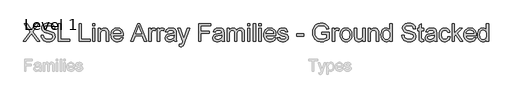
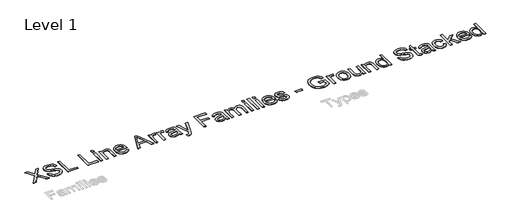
# One storey, part 21 of 52: 1 proxy.
"""IFC4 building model written with IfcOpenShell, lengths in millimetres."""

from ifc_helpers import new_model, si_unit, origin, origin_with_axes, place, context, project, spatial, polyline, outline, extrude, element, save

model = new_model("IFC4")

# Units and contexts
model_context = context("Model", 3, world=origin())
ifc_project = project(units=[si_unit("LENGTHUNIT", "METRE", prefix="MILLI")], contexts=[model_context])

# Site, building, storey
site = spatial("IfcSite", under=ifc_project)
building = spatial("IfcBuilding", under=site)
storey = spatial("IfcBuildingStorey", under=building, Name="Level 1", Elevation=0.0)

# Proxy
placement = place(None, origin())
element("IfcBuildingElementProxy", 1, Name="600mm Arial", ObjectType="600mm Arial", at=placement, inside=storey, context=model_context, shape_type="SweptSolid", body=[
    extrude(outline(polyline([(-21099.5693759, -38567.5695164), (-20867.2151077, -38239.1244711), (-21061.8982596, -37964.8316555), (-20971.5464416, -37964.8316555), (-20861.917607, -38119.1949407), (-20835.7611971, -38158.3007968), (-20824.9822547, -38179.3804351), (-20781.719332, -38118.1648711), (-20673.2677199, -37964.8316555), (-20581.5915267, -37964.8316555), (-20776.2746785, -38240.0073879), (-20543.9204104, -38567.5695164), (-20634.2722284, -38567.5695164), (-20789.076972, -38349.1947641), (-20821.3034347, -38303.8717023), (-20856.7672591, -38353.609348), (-21007.8931827, -38567.5695164), (-21099.5693759, -38567.5695164)])), origin_with_axes(), (0.0, 0.0, 1.0), 5.0),
    extrude(outline(polyline([(-20496.831515, -38360.3783767), (-20421.4892824, -38360.3783767), (-20412.8440555, -38402.1881655), (-20397.2090707, -38435.7941858), (-20372.8184944, -38462.4656304), (-20337.9064931, -38483.4716923), (-20295.2321816, -38497.1017203), (-20247.5546751, -38501.6450629), (-20205.5793394, -38498.2053662), (-20168.8279281, -38487.8862763), (-20139.0478806, -38471.5523157), (-20117.9866364, -38450.0680072), (-20105.4602544, -38425.4015194), (-20101.2847938, -38399.521021), (-20104.4117907, -38374.3027103), (-20113.7927816, -38352.505702), (-20132.849069, -38333.9092672), (-20165.0019553, -38318.2926765), (-20274.7043663, -38289.5243045), (-20346.7172669, -38270.4864112), (-20392.7944867, -38252.368223), (-20430.3000562, -38227.0211535), (-20456.8795303, -38196.3030069), (-20472.7168502, -38160.8759708), (-20477.9959568, -38121.4022327), (-20476.3634805, -38098.9660295), (-20471.4660514, -38077.2747874), (-20463.3036696, -38056.3285063), (-20451.8763352, -38036.1271862), (-20437.3128067, -38017.4939631), (-20419.7418429, -38001.2519731), (-20399.1634438, -37987.4012159), (-20375.5776094, -37975.9416918), (-20322.5658139, -37960.5458303), (-20263.8886356, -37955.4138765), (-20200.3186269, -37960.7849536), (-20144.6948692, -37976.898185), (-20120.3594752, -37988.9003351), (-20099.0039254, -38003.4224768), (-20080.6282197, -38020.4646103), (-20065.2323582, -38040.0267353), (-20052.9359026, -38061.538635), (-20043.8584143, -38084.4300922), (-20037.9998935, -38108.7011068), (-20035.3603402, -38134.3516789), (-20110.7025728, -38134.3516789), (-20115.7425562, -38110.3105905), (-20124.5349359, -38089.3964991), (-20137.0797119, -38071.6094046), (-20153.3768843, -38056.9493071), (-20173.7299557, -38045.489783), (-20198.4424287, -38037.3044086), (-20227.5143034, -38032.3931839), (-20260.9455797, -38030.7561091), (-20295.4437138, -38032.3747898), (-20324.9202586, -38037.2308322), (-20349.3752143, -38045.3242361), (-20368.8085807, -38056.6550015), (-20383.615831, -38070.2758324), (-20394.1924383, -38085.2394326), (-20400.5384027, -38101.545802), (-20402.6537242, -38119.1949407), (-20401.1546051, -38134.3792701), (-20396.6572477, -38148.1472537), (-20389.161652, -38160.4988917), (-20378.6678181, -38171.434184), (-20362.1499165, -38181.7900622), (-20336.1406595, -38192.2563049), (-20255.6480789, -38213.5198843), (-20172.5803244, -38233.7166058), (-20122.3276439, -38251.3381534), (-20079.377421, -38278.6717856), (-20062.7721474, -38294.7390318), (-20049.4134324, -38312.4065646), (-20039.1449263, -38331.5824136), (-20031.810279, -38352.1746083), (-20025.9425612, -38397.6080347), (-20027.6302198, -38421.175475), (-20032.6931958, -38444.0531365), (-20041.131489, -38466.2410194), (-20052.9450996, -38487.7391235), (-20067.9270939, -38507.7151158), (-20085.8705382, -38525.3366634), (-20106.7754325, -38540.6037662), (-20130.641777, -38553.5164242), (-20156.7751942, -38563.7849304), (-20184.481307, -38571.1195777), (-20244.6116191, -38576.9872955), (-20283.1518566, -38575.4054029), (-20318.4271414, -38570.6597252), (-20350.4374735, -38562.7502623), (-20379.1828529, -38551.6770142), (-20404.8380236, -38537.4215869), (-20427.5777294, -38519.9655863), (-20447.4019704, -38499.3090122), (-20464.3107466, -38475.4518648), (-20477.9315775, -38449.1666963), (-20487.8919825, -38421.2260587), (-20494.1919617, -38391.6299522), (-20496.831515, -38360.3783767)])), origin_with_axes(), (0.0, 0.0, 1.0), 5.0),
    extrude(outline(polyline([(-19912.9292122, -38567.5695164), (-19912.9292122, -37964.8316555), (-19837.5869796, -37964.8316555), (-19837.5869796, -38492.2272838), (-19536.2180492, -38492.2272838), (-19536.2180492, -38567.5695164), (-19912.9292122, -38567.5695164)])), origin_with_axes(), (0.0, 0.0, 1.0), 5.0),
    extrude(outline(polyline([(-19216.0135606, -38567.5695164), (-19216.0135606, -37964.8316555), (-19140.671328, -37964.8316555), (-19140.671328, -38492.2272838), (-18839.3023975, -38492.2272838), (-18839.3023975, -38567.5695164), (-19216.0135606, -38567.5695164)])), origin_with_axes(), (0.0, 0.0, 1.0), 5.0),
    extrude(outline(polyline([(-18763.9601649, -38040.1738881), (-18763.9601649, -37964.8316555), (-18688.6179323, -37964.8316555), (-18688.6179323, -38040.1738881), (-18763.9601649, -38040.1738881)])), origin_with_axes(), (0.0, 0.0, 1.0), 5.0),
    extrude(outline(polyline([(-18763.9601649, -38567.5695164), (-18763.9601649, -38124.9338998), (-18688.6179323, -38124.9338998), (-18688.6179323, -38567.5695164), (-18763.9601649, -38567.5695164)])), origin_with_axes(), (0.0, 0.0, 1.0), 5.0),
    extrude(outline(polyline([(-18575.6045834, -38567.5695164), (-18575.6045834, -38124.9338998), (-18500.2623508, -38124.9338998), (-18500.2623508, -38186.738075), (-18474.0875468, -38155.57847), (-18442.6520303, -38133.3216093), (-18405.9558013, -38119.9674929), (-18363.9988597, -38115.5161208), (-18326.8611723, -38119.1029702), (-18292.8504819, -38129.8635186), (-18264.4867801, -38146.4549965), (-18244.2900585, -38167.5346349), (-18230.5864542, -38193.0472512), (-18221.702104, -38222.9376633), (-18217.7289785, -38295.7782984), (-18217.7289785, -38567.5695164), (-18293.0712111, -38567.5695164), (-18293.0712111, -38305.9318415), (-18295.2417148, -38266.9731382), (-18301.7532262, -38239.2716239), (-18313.7645733, -38219.4243903), (-18332.4345846, -38204.0285288), (-18356.3653083, -38194.1508972), (-18384.1587931, -38190.8583534), (-18407.0364547, -38192.7069604), (-18428.2862384, -38198.2527815), (-18447.9081443, -38207.4958166), (-18465.9021724, -38220.4360658), (-18480.9347504, -38238.545057), (-18491.6723062, -38263.2943182), (-18498.1148396, -38294.6838495), (-18500.2623508, -38332.7136507), (-18500.2623508, -38567.5695164), (-18575.6045834, -38567.5695164)])), origin_with_axes(), (0.0, 0.0, 1.0), 5.0),
    extrude(outline(polyline([(-17804.2296159, -38435.7206094), (-17730.3589113, -38445.1383884), (-17741.6850782, -38474.7252979), (-17756.9751736, -38500.7989343), (-17776.2291975, -38523.3592977), (-17799.4471499, -38542.406388), (-17826.3899076, -38557.535535), (-17856.8183471, -38568.3420686), (-17890.7324685, -38574.8259888), (-17928.1322719, -38576.9872955), (-17974.8808764, -38573.2578918), (-18016.5343153, -38562.0696806), (-18053.0925886, -38543.422662), (-18084.5556962, -38517.3168359), (-18109.8567804, -38484.4787693), (-18127.9289834, -38445.6350291), (-18138.7723052, -38400.7856154), (-18142.3867459, -38349.9305281), (-18138.7355171, -38297.3509939), (-18127.7818306, -38251.0070596), (-18109.5256866, -38210.8987251), (-18083.967085, -38177.0259903), (-18052.5867508, -38150.1154224), (-18016.8654091, -38130.8935882), (-17976.8030598, -38119.3604876), (-17932.399703, -38115.5161208), (-17889.4264874, -38119.3512906), (-17850.5643532, -38130.8568), (-17815.8133002, -38150.032649), (-17785.1733285, -38176.8788375), (-17760.1619514, -38210.6779959), (-17742.296682, -38250.712754), (-17731.5775204, -38296.9831119), (-17728.0044665, -38349.4890697), (-17728.4459249, -38369.7961558), (-18067.0445132, -38369.7961558), (-18062.6805131, -38399.8613119), (-18054.0030965, -38426.1924657), (-18041.0122636, -38448.7896172), (-18023.7080142, -38467.6527665), (-18003.0468417, -38482.5243962), (-17979.9852391, -38493.1469888), (-17954.5232065, -38499.5205444), (-17926.6607439, -38501.6450629), (-17886.5616064, -38497.7087255), (-17852.7900392, -38485.8997135), (-17825.3460424, -38465.4822628), (-17804.2296159, -38435.7206094)]), holes=[polyline([(-18067.0445132, -38294.4539232), (-17803.3466991, -38294.4539232), (-17813.5370304, -38254.6490913), (-17822.3018189, -38238.9957124), (-17833.5130227, -38226.1750249), (-17854.0592321, -38210.7239811), (-17877.4381329, -38199.6875213), (-17903.6497251, -38193.0656453), (-17932.6940086, -38190.8583534), (-17959.1861108, -38192.6195884), (-17983.480118, -38197.9032936), (-18005.5760304, -38206.7094688), (-18025.4738478, -38219.0381142), (-18042.1710918, -38234.3190126), (-18054.6652841, -38251.9819469), (-18062.9564246, -38272.0269171), (-18067.0445132, -38294.4539232)])]), origin_with_axes(), (0.0, 0.0, 1.0), 5.0),
    extrude(outline(polyline([(-17477.9918626, -38567.5695164), (-17237.3970377, -37964.8316555), (-17173.2384178, -37964.8316555), (-16932.6435929, -38567.5695164), (-17012.2532567, -38567.5695164), (-17081.267919, -38379.2139349), (-17329.5146893, -38379.2139349), (-17398.3821988, -38567.5695164), (-17477.9918626, -38567.5695164)]), holes=[polyline([(-17301.8499633, -38303.8717023), (-17108.7854922, -38303.8717023), (-17163.0848747, -38155.6888346), (-17205.3177277, -38040.1738881), (-17242.8416912, -38142.7393884), (-17301.8499633, -38303.8717023)])]), origin_with_axes(), (0.0, 0.0, 1.0), 5.0),
    extrude(outline(polyline([(-16861.5687914, -38567.5695164), (-16861.5687914, -38124.9338998), (-16795.6443379, -38124.9338998), (-16795.6443379, -38190.416895), (-16771.2905498, -38152.4514731), (-16748.8497481, -38130.0842478), (-16726.33537, -38119.1581525), (-16701.7608527, -38115.5161208), (-16664.2368892, -38121.3286563), (-16626.1243145, -38138.7662628), (-16651.287443, -38206.3093972), (-16677.7749467, -38194.7211143), (-16704.2624503, -38190.8583534), (-16726.7584343, -38194.5739615), (-16746.8631853, -38205.720786), (-16763.1051754, -38223.4526981), (-16774.0128766, -38246.9235694), (-16783.1731383, -38289.0092697), (-16786.2265588, -38334.9209427), (-16786.2265588, -38567.5695164), (-16861.5687914, -38567.5695164)])), origin_with_axes(), (0.0, 0.0, 1.0), 5.0),
    extrude(outline(polyline([(-16579.0354191, -38567.5695164), (-16579.0354191, -38124.9338998), (-16513.1109656, -38124.9338998), (-16513.1109656, -38190.416895), (-16488.7571775, -38152.4514731), (-16466.3163758, -38130.0842478), (-16443.8019977, -38119.1581525), (-16419.2274804, -38115.5161208), (-16381.7035169, -38121.3286563), (-16343.5909422, -38138.7662628), (-16368.7540707, -38206.3093972), (-16395.2415744, -38194.7211143), (-16421.729078, -38190.8583534), (-16444.225062, -38194.5739615), (-16464.3298131, -38205.720786), (-16480.5718031, -38223.4526981), (-16491.4795043, -38246.9235694), (-16500.639766, -38289.0092697), (-16503.6931865, -38334.9209427), (-16503.6931865, -38567.5695164), (-16579.0354191, -38567.5695164)])), origin_with_axes(), (0.0, 0.0, 1.0), 5.0),
    extrude(outline(polyline([(-16013.9686746, -38511.062842), (-16049.9659278, -38541.9281414), (-16087.0300388, -38562.1248629), (-16126.0071362, -38573.2716874), (-16167.7433485, -38576.9872955), (-16201.289588, -38574.7524124), (-16230.706352, -38568.047763), (-16255.9936407, -38556.8733474), (-16277.1514539, -38541.2291656), (-16293.857895, -38522.1084989), (-16305.7910672, -38500.5046287), (-16312.9509706, -38476.4175551), (-16315.337605, -38449.847278), (-16311.7323615, -38418.6140966), (-16300.9166308, -38390.2503948), (-16284.2331823, -38365.9701831), (-16263.0247853, -38346.9874721), (-16238.1007801, -38332.6400743), (-16210.2705072, -38322.265802), (-16145.0818176, -38310.9350366), (-16068.0473278, -38299.0156599), (-16014.410133, -38285.0361441), (-16013.9686746, -38268.2607252), (-16019.1558107, -38234.6363108), (-16025.6397309, -38222.1835053), (-16034.7172191, -38212.6369675), (-16050.4073862, -38203.1088238), (-16069.5188558, -38196.3030069), (-16118.0057028, -38190.8583534), (-16162.8873062, -38194.481991), (-16194.2308522, -38205.352904), (-16215.6047961, -38225.457655), (-16230.5775933, -38256.7828069), (-16305.9198259, -38247.3650278), (-16292.841621, -38206.1622444), (-16273.3254812, -38173.7886288), (-16245.5503905, -38149.0301705), (-16207.6953332, -38130.672859), (-16161.3973841, -38119.3053053), (-16108.2936181, -38115.5161208), (-16057.3603559, -38118.8638469), (-16016.9853069, -38128.9070254), (-15986.5430718, -38144.0085813), (-15965.4082512, -38162.5314397), (-15951.3919472, -38185.4320939), (-15942.3052619, -38213.6670371), (-15938.6264419, -38279.5914906), (-15938.6264419, -38373.327823), (-15934.8004692, -38504.2202369), (-15929.1350865, -38536.5754583), (-15919.7908838, -38567.5695164), (-15995.1331164, -38567.5695164), (-16007.1996458, -38541.3763184), (-16013.9686746, -38511.062842)]), holes=[polyline([(-16013.9686746, -38360.3783767), (-16064.5892371, -38372.9231528), (-16135.5168858, -38383.481366), (-16200.3376933, -38395.6950483), (-16217.2050828, -38404.0459696), (-16229.6946765, -38415.560676), (-16237.4201984, -38429.3562508), (-16239.9953724, -38444.5497772), (-16234.385172, -38466.9537907), (-16217.5545707, -38485.3111023), (-16189.8714506, -38497.5615727), (-16151.7036936, -38501.6450629), (-16111.2366741, -38497.1385085), (-16075.4785442, -38483.6188451), (-16046.4894429, -38463.6980351), (-16026.3295096, -38439.9880405), (-16017.3899771, -38415.560676), (-16014.410133, -38381.7155325), (-16013.9686746, -38360.3783767)])]), origin_with_axes(), (0.0, 0.0, 1.0), 5.0),
    extrude(outline(polyline([(-15835.0308721, -38737.0895398), (-15844.4486512, -38664.5432104), (-15806.1889237, -38671.1650863), (-15786.0657785, -38669.086553), (-15770.4307938, -38662.8509532), (-15758.2538997, -38652.8997452), (-15748.5050268, -38639.6743875), (-15727.9036351, -38584.1977826), (-15722.0175232, -38565.9508356), (-15882.1197675, -38124.9338998), (-15802.6572565, -38124.9338998), (-15717.750092, -38370.6790726), (-15688.1723796, -38468.9771417), (-15658.5946672, -38382.1569909), (-15571.333058, -38124.9338998), (-15492.4591582, -38124.9338998), (-15646.5281378, -38578.1645179), (-15686.5536989, -38676.462587), (-15707.044726, -38707.8429212), (-15730.2580799, -38729.5847471), (-15757.2238301, -38742.2766759), (-15788.9720463, -38746.5073189), (-15810.7874486, -38744.1528741), (-15835.0308721, -38737.0895398)])), origin_with_axes(), (0.0, 0.0, 1.0), 5.0),
    extrude(outline(polyline([(-15185.2041158, -38567.5695164), (-15185.2041158, -37964.8316555), (-14780.2396155, -37964.8316555), (-14780.2396155, -38040.1738881), (-15109.8618832, -38040.1738881), (-15109.8618832, -38219.1116906), (-14827.3285109, -38219.1116906), (-14827.3285109, -38294.4539232), (-15109.8618832, -38294.4539232), (-15109.8618832, -38567.5695164), (-15185.2041158, -38567.5695164)])), origin_with_axes(), (0.0, 0.0, 1.0), 5.0),
    extrude(outline(polyline([(-14403.5284525, -38511.062842), (-14439.5257057, -38541.9281414), (-14476.5898167, -38562.1248629), (-14515.5669141, -38573.2716874), (-14557.3031265, -38576.9872955), (-14590.8493659, -38574.7524124), (-14620.2661299, -38568.047763), (-14645.5534186, -38556.8733474), (-14666.7112318, -38541.2291656), (-14683.4176729, -38522.1084989), (-14695.3508451, -38500.5046287), (-14702.5107485, -38476.4175551), (-14704.8973829, -38449.847278), (-14701.2921394, -38418.6140966), (-14690.4764087, -38390.2503948), (-14673.7929602, -38365.9701831), (-14652.5845632, -38346.9874721), (-14627.660558, -38332.6400743), (-14599.8302851, -38322.265802), (-14534.6415956, -38310.9350366), (-14457.6071058, -38299.0156599), (-14403.9699109, -38285.0361441), (-14403.5284525, -38268.2607252), (-14408.7155886, -38234.6363108), (-14415.1995088, -38222.1835053), (-14424.276997, -38212.6369675), (-14439.9671641, -38203.1088238), (-14459.0786337, -38196.3030069), (-14507.5654807, -38190.8583534), (-14552.4470841, -38194.481991), (-14583.7906301, -38205.352904), (-14605.164574, -38225.457655), (-14620.1373712, -38256.7828069), (-14695.4796038, -38247.3650278), (-14682.4013989, -38206.1622444), (-14662.8852591, -38173.7886288), (-14635.1101684, -38149.0301705), (-14597.2551111, -38130.672859), (-14550.957162, -38119.3053053), (-14497.853396, -38115.5161208), (-14446.9201338, -38118.8638469), (-14406.5450848, -38128.9070254), (-14376.1028497, -38144.0085813), (-14354.9680291, -38162.5314397), (-14340.9517251, -38185.4320939), (-14331.8650398, -38213.6670371), (-14328.1862199, -38279.5914906), (-14328.1862199, -38373.327823), (-14324.3602471, -38504.2202369), (-14318.6948644, -38536.5754583), (-14309.3506617, -38567.5695164), (-14384.6928943, -38567.5695164), (-14396.7594238, -38541.3763184), (-14403.5284525, -38511.062842)]), holes=[polyline([(-14403.5284525, -38360.3783767), (-14454.149015, -38372.9231528), (-14525.0766637, -38383.481366), (-14589.8974712, -38395.6950483), (-14606.7648607, -38404.0459696), (-14619.2544544, -38415.560676), (-14626.9799763, -38429.3562508), (-14629.5551503, -38444.5497772), (-14623.9449499, -38466.9537907), (-14607.1143486, -38485.3111023), (-14579.4312285, -38497.5615727), (-14541.2634715, -38501.6450629), (-14500.796452, -38497.1385085), (-14465.0383221, -38483.6188451), (-14436.0492208, -38463.6980351), (-14415.8892875, -38439.9880405), (-14406.949755, -38415.560676), (-14403.9699109, -38381.7155325), (-14403.5284525, -38360.3783767)])]), origin_with_axes(), (0.0, 0.0, 1.0), 5.0),
    extrude(outline(polyline([(-14224.59065, -38567.5695164), (-14224.59065, -38124.9338998), (-14149.2484174, -38124.9338998), (-14149.2484174, -38197.7745349), (-14126.5868865, -38164.3156674), (-14097.4506325, -38138.1040753), (-14062.8329367, -38121.1631094), (-14023.7270807, -38115.5161208), (-13981.8253214, -38121.273474), (-13963.9922417, -38128.4701655), (-13948.2376952, -38138.5455337), (-13923.1481432, -38166.1918656), (-13906.7406062, -38203.0720356), (-13879.2782152, -38164.7663229), (-13847.9530634, -38137.4050995), (-13812.7651505, -38120.9883654), (-13773.7144767, -38115.5161208), (-13743.5527516, -38117.7923906), (-13717.0790436, -38124.6212001), (-13694.2933525, -38136.0025494), (-13675.1956784, -38151.9364383), (-13660.098721, -38172.6068079), (-13649.3151801, -38198.1975992), (-13642.8450555, -38228.7088121), (-13640.6883473, -38264.1404468), (-13640.6883473, -38567.5695164), (-13716.0305799, -38567.5695164), (-13716.0305799, -38296.5140624), (-13717.7780194, -38258.9349166), (-13723.0203378, -38233.6062412), (-13732.8427871, -38216.2606051), (-13748.3306191, -38202.6305772), (-13768.2514291, -38193.8014093), (-13791.3728125, -38190.8583534), (-13812.7237638, -38192.7437486), (-13832.1893199, -38198.3999343), (-13849.7694807, -38207.8269104), (-13865.4642463, -38221.024677), (-13878.3723058, -38238.3795101), (-13887.5923483, -38260.2776859), (-13893.1243738, -38286.7192043), (-13894.9683823, -38317.7040653), (-13894.9683823, -38567.5695164), (-13970.310615, -38567.5695164), (-13970.310615, -38288.1263529), (-13974.6700166, -38245.5256178), (-13980.1192686, -38228.8053812), (-13987.7482215, -38215.138565), (-13997.8603779, -38204.5159724), (-14010.7592403, -38196.9284063), (-14026.4448089, -38192.3758666), (-14044.9170836, -38190.8583534), (-14073.942973, -38194.9050553), (-14100.687994, -38207.0451612), (-14122.7609138, -38226.9843653), (-14137.7704992, -38254.4283621), (-14146.3789378, -38292.5041486), (-14149.2484174, -38344.3387218), (-14149.2484174, -38567.5695164), (-14224.59065, -38567.5695164)])), origin_with_axes(), (0.0, 0.0, 1.0), 5.0),
    extrude(outline(polyline([(-13527.6749984, -38040.1738881), (-13527.6749984, -37964.8316555), (-13452.3327657, -37964.8316555), (-13452.3327657, -38040.1738881), (-13527.6749984, -38040.1738881)])), origin_with_axes(), (0.0, 0.0, 1.0), 5.0),
    extrude(outline(polyline([(-13527.6749984, -38567.5695164), (-13527.6749984, -38124.9338998), (-13452.3327657, -38124.9338998), (-13452.3327657, -38567.5695164), (-13527.6749984, -38567.5695164)])), origin_with_axes(), (0.0, 0.0, 1.0), 5.0),
    extrude(outline(polyline([(-13339.3194168, -38567.5695164), (-13339.3194168, -37964.8316555), (-13263.9771842, -37964.8316555), (-13263.9771842, -38567.5695164), (-13339.3194168, -38567.5695164)])), origin_with_axes(), (0.0, 0.0, 1.0), 5.0),
    extrude(outline(polyline([(-13150.9638353, -38040.1738881), (-13150.9638353, -37964.8316555), (-13075.6216027, -37964.8316555), (-13075.6216027, -38040.1738881), (-13150.9638353, -38040.1738881)])), origin_with_axes(), (0.0, 0.0, 1.0), 5.0),
    extrude(outline(polyline([(-13150.9638353, -38567.5695164), (-13150.9638353, -38124.9338998), (-13075.6216027, -38124.9338998), (-13075.6216027, -38567.5695164), (-13150.9638353, -38567.5695164)])), origin_with_axes(), (0.0, 0.0, 1.0), 5.0),
    extrude(outline(polyline([(-12652.704461, -38435.7206094), (-12578.8337564, -38445.1383884), (-12590.1599233, -38474.7252979), (-12605.4500187, -38500.7989343), (-12624.7040427, -38523.3592977), (-12647.9219951, -38542.406388), (-12674.8647527, -38557.535535), (-12705.2931922, -38568.3420686), (-12739.2073137, -38574.8259888), (-12776.607117, -38576.9872955), (-12823.3557215, -38573.2578918), (-12865.0091604, -38562.0696806), (-12901.5674337, -38543.422662), (-12933.0305414, -38517.3168359), (-12958.3316256, -38484.4787693), (-12976.4038286, -38445.6350291), (-12987.2471504, -38400.7856154), (-12990.861591, -38349.9305281), (-12987.2103622, -38297.3509939), (-12976.2566758, -38251.0070596), (-12958.0005318, -38210.8987251), (-12932.4419302, -38177.0259903), (-12901.061596, -38150.1154224), (-12865.3402542, -38130.8935882), (-12825.277905, -38119.3604876), (-12780.8745481, -38115.5161208), (-12737.9013326, -38119.3512906), (-12699.0391983, -38130.8568), (-12664.2881453, -38150.032649), (-12633.6481737, -38176.8788375), (-12608.6367965, -38210.6779959), (-12590.7715271, -38250.712754), (-12580.0523655, -38296.9831119), (-12576.4793116, -38349.4890697), (-12576.92077, -38369.7961558), (-12915.5193584, -38369.7961558), (-12911.1553582, -38399.8613119), (-12902.4779417, -38426.1924657), (-12889.4871087, -38448.7896172), (-12872.1828593, -38467.6527665), (-12851.5216868, -38482.5243962), (-12828.4600842, -38493.1469888), (-12802.9980516, -38499.5205444), (-12775.135589, -38501.6450629), (-12735.0364515, -38497.7087255), (-12701.2648844, -38485.8997135), (-12673.8208875, -38465.4822628), (-12652.704461, -38435.7206094)]), holes=[polyline([(-12915.5193584, -38294.4539232), (-12651.8215442, -38294.4539232), (-12662.0118755, -38254.6490913), (-12670.776664, -38238.9957124), (-12681.9878678, -38226.1750249), (-12702.5340773, -38210.7239811), (-12725.9129781, -38199.6875213), (-12752.1245702, -38193.0656453), (-12781.1688537, -38190.8583534), (-12807.6609559, -38192.6195884), (-12831.9549632, -38197.9032936), (-12854.0508755, -38206.7094688), (-12873.9486929, -38219.0381142), (-12890.645937, -38234.3190126), (-12903.1401292, -38251.9819469), (-12911.4312697, -38272.0269171), (-12915.5193584, -38294.4539232)])]), origin_with_axes(), (0.0, 0.0, 1.0), 5.0),
    extrude(outline(polyline([(-12529.3904162, -38435.7206094), (-12454.0481836, -38426.3028303), (-12449.4956439, -38443.4829195), (-12442.1655952, -38458.5292931), (-12432.0580374, -38471.4419511), (-12419.1729705, -38482.2208935), (-12403.4736063, -38490.7189676), (-12384.9231567, -38496.7890206), (-12339.2690011, -38501.6450629), (-12294.1666685, -38497.1936908), (-12276.6370915, -38491.6294756), (-12262.4552405, -38483.8395743), (-12243.6932588, -38464.4889814), (-12239.0027634, -38453.6548566), (-12237.4392649, -38442.0481797), (-12239.0119604, -38431.8762425), (-12243.730047, -38422.8447395), (-12262.6023933, -38408.2030361), (-12290.8189424, -38398.6381042), (-12340.1519179, -38386.7187276), (-12408.9090628, -38366.8347058), (-12453.6067252, -38349.8569517), (-12482.319915, -38331.3340932), (-12503.1236418, -38306.8147582), (-12515.7603883, -38277.8624452), (-12519.9726372, -38246.0406526), (-12516.5881228, -38216.8492163), (-12506.4345797, -38189.9018602), (-12490.431713, -38166.265442), (-12469.4992274, -38147.0068195), (-12448.6955006, -38134.8851078), (-12421.6009917, -38124.7131706), (-12390.2758398, -38117.8153832), (-12356.7801841, -38115.5161208), (-12307.7415141, -38119.2133348), (-12265.1039909, -38130.304977), (-12230.817389, -38147.7057953), (-12206.8314829, -38170.330538), (-12190.9389807, -38199.8530681), (-12180.9325904, -38237.9472487), (-12256.274823, -38247.3650278), (-12265.7845726, -38223.6550332), (-12284.6017367, -38205.7943624), (-12312.9102562, -38194.5923556), (-12350.8940722, -38190.8583534), (-12394.1569948, -38194.4268087), (-12422.9989432, -38205.1321748), (-12439.2225392, -38220.5832186), (-12444.6304046, -38238.3887071), (-12442.3863244, -38249.97699), (-12435.6540839, -38260.3144741), (-12424.1393774, -38269.5483121), (-12407.5478994, -38276.9427402), (-12342.6535155, -38292.9823952), (-12232.0681877, -38328.4462196), (-12202.8583573, -38345.4055795), (-12180.7118612, -38368.6189334), (-12166.7507395, -38398.1598576), (-12162.0970323, -38434.1019286), (-12167.5600799, -38471.2580101), (-12183.9492228, -38506.2067996), (-12210.6390615, -38536.2075763), (-12247.0041967, -38558.5196193), (-12290.929307, -38572.3703765), (-12340.2990707, -38576.9872955), (-12380.8488636, -38574.7616094), (-12416.2667027, -38568.0845512), (-12446.552588, -38556.9561209), (-12471.7065194, -38541.3763184), (-12492.2527288, -38521.4187201), (-12508.7154481, -38497.1569026), (-12521.0946773, -38468.5908656), (-12529.3904162, -38435.7206094)])), origin_with_axes(), (0.0, 0.0, 1.0), 5.0),
    extrude(outline(polyline([(-11879.56366, -38388.631714), (-11879.56366, -38313.2894814), (-11644.119183, -38313.2894814), (-11644.119183, -38388.631714), (-11879.56366, -38388.631714)])), origin_with_axes(), (0.0, 0.0, 1.0), 5.0),
    extrude(outline(polyline([(-11031.9635431, -38332.1250395), (-11031.9635431, -38256.7828069), (-10787.1012871, -38256.7828069), (-10787.1012871, -38482.0737407), (-10846.6061998, -38523.4604652), (-10907.9873107, -38553.1485422), (-10971.097467, -38571.0276072), (-11035.7895158, -38576.9872955), (-11079.066234, -38574.6190552), (-11120.3104042, -38567.5143341), (-11159.5220264, -38555.6731324), (-11196.7011005, -38539.09545), (-11230.6474116, -38518.0296073), (-11260.1607447, -38492.7239245), (-11285.2410997, -38463.1784018), (-11305.8884767, -38429.393039), (-11322.0155036, -38392.4484897), (-11333.5348086, -38353.425407), (-11340.4463916, -38312.3237911), (-11342.7502526, -38269.1436419), (-11340.4555887, -38225.9588942), (-11333.5715968, -38184.2548716), (-11322.0982771, -38144.0315739), (-11306.0356295, -38105.2890013), (-11285.6687625, -38069.7286079), (-11261.2827848, -38039.0518481), (-11232.8776962, -38013.2587217), (-11200.4534969, -37992.3492288), (-11164.713761, -37976.1900121), (-11126.362063, -37964.6477145), (-11085.3984029, -37957.722336), (-11041.8227805, -37955.4138765), (-10979.761088, -37960.7665595), (-10923.9533893, -37976.8246086), (-10899.0339826, -37988.5784383), (-10876.9564644, -38002.4291954), (-10857.7208346, -38018.3768799), (-10841.3270932, -38036.4214918), (-10814.9683482, -38080.4385725), (-10795.7833022, -38136.1175125), (-10865.2394229, -38155.6888346), (-10880.745649, -38115.9759732), (-10899.5996012, -38086.0119847), (-10924.5420005, -38063.4240302), (-10958.3135676, -38045.8392709), (-10998.578252, -38034.5268995), (-11043.0000029, -38030.7561091), (-11095.0001229, -38034.8212051), (-11139.4586621, -38047.0164933), (-11176.2100734, -38065.8152632), (-11205.08881, -38089.6908047), (-11227.2537002, -38117.410713), (-11243.8635723, -38147.7425835), (-11261.5219081, -38204.61714), (-11267.40802, -38266.0534332), (-11265.6375879, -38303.6739657), (-11260.3262916, -38338.1031219), (-11251.4741311, -38369.3409019), (-11239.0811064, -38397.3873055), (-11223.3081658, -38422.1365667), (-11204.3162578, -38443.4829195), (-11182.1053824, -38461.4263638), (-11156.6755394, -38475.9668996), (-11129.217747, -38487.2010961), (-11100.9230231, -38495.2255221), (-11071.7913676, -38500.0401777), (-11041.8227805, -38501.6450629), (-10989.6387195, -38496.8074147), (-10938.7422455, -38482.2944699), (-10894.5412238, -38462.3000835), (-10862.4435197, -38441.0181101), (-10862.4435197, -38332.1250395), (-11031.9635431, -38332.1250395)])), origin_with_axes(), (0.0, 0.0, 1.0), 5.0),
    extrude(outline(polyline([(-10674.0879382, -38567.5695164), (-10674.0879382, -38124.9338998), (-10608.1634846, -38124.9338998), (-10608.1634846, -38190.416895), (-10583.8096966, -38152.4514731), (-10561.3688948, -38130.0842478), (-10538.8545167, -38119.1581525), (-10514.2799995, -38115.5161208), (-10476.756036, -38121.3286563), (-10438.6434613, -38138.7662628), (-10463.8065897, -38206.3093972), (-10490.2940934, -38194.7211143), (-10516.781597, -38190.8583534), (-10539.277581, -38194.5739615), (-10559.3823321, -38205.720786), (-10575.6243222, -38223.4526981), (-10586.5320233, -38246.9235694), (-10595.692285, -38289.0092697), (-10598.7457056, -38334.9209427), (-10598.7457056, -38567.5695164), (-10674.0879382, -38567.5695164)])), origin_with_axes(), (0.0, 0.0, 1.0), 5.0),
    extrude(outline(polyline([(-10410.390124, -38346.2517081), (-10406.3158309, -38288.9264962), (-10394.0929516, -38239.5291413), (-10373.7214862, -38198.0596434), (-10345.2014345, -38164.5180025), (-10316.4882448, -38143.0796792), (-10284.7952109, -38127.7665912), (-10250.1223328, -38118.5787384), (-10212.4696106, -38115.5161208), (-10170.9035437, -38119.2455245), (-10133.3197994, -38130.4337357), (-10099.7183776, -38149.0807543), (-10070.0992785, -38175.1865804), (-10045.9248329, -38207.8682971), (-10028.6573717, -38246.2429877), (-10018.296895, -38290.3106522), (-10014.8434028, -38340.0712906), (-10016.3701131, -38380.4003543), (-10020.9502439, -38416.1860754), (-10028.5837953, -38447.4284539), (-10039.2707673, -38474.1274897), (-10052.8778026, -38497.1890922), (-10069.271544, -38517.519171), (-10088.4519915, -38535.1177259), (-10110.4191452, -38549.9847571), (-10134.3176793, -38561.7983676), (-10159.2922682, -38570.2366609), (-10185.342912, -38575.2996369), (-10212.4696106, -38576.9872955), (-10254.6426828, -38573.2716874), (-10292.5759151, -38562.1248629), (-10326.2693073, -38543.5468221), (-10355.7228595, -38517.5375651), (-10379.6397878, -38484.5385501), (-10396.7233079, -38444.9912356), (-10406.97342, -38398.8956216), (-10410.390124, -38346.2517081)]), holes=[polyline([(-10335.0478914, -38346.1045553), (-10332.8681906, -38382.649033), (-10326.3290881, -38414.2914831), (-10315.430584, -38441.0319057), (-10300.1726783, -38462.8703006), (-10281.6130316, -38479.8342591), (-10260.8093048, -38491.9513723), (-10237.7614978, -38499.2216402), (-10212.4696106, -38501.6450629), (-10187.3064821, -38499.2078447), (-10164.3506457, -38491.89619), (-10143.6021011, -38479.7100989), (-10125.0608486, -38462.6495714), (-10109.8029428, -38440.5950458), (-10098.9044387, -38413.4269604), (-10092.3653362, -38381.1453154), (-10090.1856354, -38343.7501106), (-10092.3791318, -38308.3644612), (-10098.959621, -38277.5497455), (-10109.927103, -38251.3059637), (-10125.2815778, -38229.6331157), (-10143.8918082, -38212.6691572), (-10164.6265571, -38200.5520439), (-10187.4858246, -38193.281776), (-10212.4696106, -38190.8583534), (-10237.7614978, -38193.272579), (-10260.8093048, -38200.5152557), (-10281.6130316, -38212.5863837), (-10300.1726783, -38229.4859629), (-10315.430584, -38251.2599784), (-10326.3290881, -38277.9544157), (-10332.8681906, -38309.5692747), (-10335.0478914, -38346.1045553)])]), origin_with_axes(), (0.0, 0.0, 1.0), 5.0),
    extrude(outline(polyline([(-9647.5500188, -38567.5695164), (-9647.5500188, -38491.4915198), (-9674.8100747, -38528.8959217), (-9706.5582909, -38555.6133516), (-9742.7946674, -38571.6438095), (-9783.5192042, -38576.9872955), (-9820.2154333, -38573.2348992), (-9854.3732765, -38561.9777101), (-9883.0312839, -38545.0551383), (-9903.2280055, -38524.3065938), (-9916.8212452, -38499.1066771), (-9925.6688072, -38468.8299889), (-9930.0833911, -38398.785257), (-9930.0833911, -38124.9338998), (-9854.7411585, -38124.9338998), (-9854.7411585, -38363.3214327), (-9853.6007243, -38410.9989393), (-9850.1794218, -38440.1351933), (-9839.1981442, -38465.7581743), (-9820.3809802, -38485.2375259), (-9794.9787284, -38497.5431786), (-9764.2421877, -38501.6450629), (-9731.7398134, -38497.4512081), (-9701.3343665, -38484.8696439), (-9676.2632085, -38465.0591985), (-9659.7637011, -38439.1787001), (-9650.6034394, -38403.7332699), (-9647.5500188, -38355.2280288), (-9647.5500188, -38124.9338998), (-9572.2077862, -38124.9338998), (-9572.2077862, -38567.5695164), (-9647.5500188, -38567.5695164)])), origin_with_axes(), (0.0, 0.0, 1.0), 5.0),
    extrude(outline(polyline([(-9468.6122164, -38567.5695164), (-9468.6122164, -38124.9338998), (-9393.2699838, -38124.9338998), (-9393.2699838, -38186.738075), (-9367.0951798, -38155.57847), (-9335.6596633, -38133.3216093), (-9298.9634343, -38119.9674929), (-9257.0064927, -38115.5161208), (-9219.8688053, -38119.1029702), (-9185.8581149, -38129.8635186), (-9157.4944131, -38146.4549965), (-9137.2976915, -38167.5346349), (-9123.5940872, -38193.0472512), (-9114.709737, -38222.9376633), (-9110.7366115, -38295.7782984), (-9110.7366115, -38567.5695164), (-9186.0788441, -38567.5695164), (-9186.0788441, -38305.9318415), (-9188.2493478, -38266.9731382), (-9194.7608592, -38239.2716239), (-9206.7722063, -38219.4243903), (-9225.4422176, -38204.0285288), (-9249.3729413, -38194.1508972), (-9277.1664261, -38190.8583534), (-9300.0440877, -38192.7069604), (-9321.2938714, -38198.2527815), (-9340.9157773, -38207.4958166), (-9358.9098054, -38220.4360658), (-9373.9423834, -38238.545057), (-9384.6799392, -38263.2943182), (-9391.1224726, -38294.6838495), (-9393.2699838, -38332.7136507), (-9393.2699838, -38567.5695164), (-9468.6122164, -38567.5695164)])), origin_with_axes(), (0.0, 0.0, 1.0), 5.0),
    extrude(outline(polyline([(-8734.0254484, -38567.5695164), (-8734.0254484, -38496.494715), (-8756.5674177, -38531.7102189), (-8783.8734587, -38556.8641504), (-8815.9435717, -38571.9565092), (-8852.7777564, -38576.9872955), (-8877.6465793, -38575.1662796), (-8901.4853326, -38569.703232), (-8924.2940163, -38560.5981526), (-8946.0726304, -38547.8510415), (-8966.1405933, -38531.8435762), (-8983.8173231, -38512.9574342), (-8999.10282, -38491.1926157), (-9011.997084, -38466.5491206), (-9022.2334005, -38439.4959983), (-9029.5450551, -38410.5022986), (-9035.3943789, -38346.6931665), (-9030.0049076, -38283.6749807), (-9013.8364939, -38226.7636361), (-9001.7147822, -38201.4073696), (-8986.9075319, -38179.1964941), (-8969.414743, -38160.1310097), (-8949.2364156, -38144.2109164), (-8927.0853209, -38131.6569433), (-8903.6742305, -38122.6898197), (-8879.0031442, -38117.3095455), (-8853.072062, -38115.5161208), (-8816.2102861, -38120.6480746), (-8783.6159414, -38136.0439361), (-8755.9880035, -38159.6435661), (-8734.0254484, -38189.3868254), (-8734.0254484, -37964.8316555), (-8658.6832158, -37964.8316555), (-8658.6832158, -38567.5695164), (-8734.0254484, -38567.5695164)]), holes=[polyline([(-8960.0521462, -38346.3988609), (-8957.9276277, -38382.9341416), (-8951.5540722, -38414.5490005), (-8940.9314795, -38441.2434378), (-8926.0598499, -38463.0174534), (-8908.3003466, -38479.9170326), (-8889.014133, -38491.9881605), (-8868.2012091, -38499.2308373), (-8845.8615749, -38501.6450629), (-8823.4161747, -38499.3412019), (-8802.727411, -38492.4296189), (-8783.7952838, -38480.9103139), (-8766.6197932, -38464.783287), (-8752.3597673, -38443.9197793), (-8742.1740346, -38418.1910323), (-8736.062595, -38387.5970459), (-8734.0254484, -38352.1378201), (-8736.0993832, -38313.2618902), (-8742.3211874, -38279.9225844), (-8752.6908611, -38252.1199026), (-8767.2084044, -38229.8538449), (-8784.7609741, -38212.7933173), (-8804.2357272, -38200.6072262), (-8825.6326637, -38193.2955716), (-8848.9517837, -38190.8583534), (-8871.7328762, -38193.1990026), (-8892.5458001, -38200.2209501), (-8911.3905553, -38211.9241961), (-8928.2671419, -38228.3087405), (-8942.1730813, -38249.7332682), (-8952.1058951, -38276.5564641), (-8958.0655835, -38308.7783284), (-8960.0521462, -38346.3988609)])]), origin_with_axes(), (0.0, 0.0, 1.0), 5.0),
    extrude(outline(polyline([(-8329.0609481, -38360.3783767), (-8253.7187155, -38360.3783767), (-8245.0734886, -38402.1881655), (-8229.4385038, -38435.7941858), (-8205.0479275, -38462.4656304), (-8170.1359262, -38483.4716923), (-8127.4616148, -38497.1017203), (-8079.7841082, -38501.6450629), (-8037.8087725, -38498.2053662), (-8001.0573612, -38487.8862763), (-7971.2773137, -38471.5523157), (-7950.2160695, -38450.0680072), (-7937.6896875, -38425.4015194), (-7933.5142269, -38399.521021), (-7936.6412239, -38374.3027103), (-7946.0222147, -38352.505702), (-7965.0785021, -38333.9092672), (-7997.2313885, -38318.2926765), (-8106.9337994, -38289.5243045), (-8178.9467, -38270.4864112), (-8225.0239199, -38252.368223), (-8262.5294893, -38227.0211535), (-8289.1089634, -38196.3030069), (-8304.9462833, -38160.8759708), (-8310.22539, -38121.4022327), (-8308.5929136, -38098.9660295), (-8303.6954845, -38077.2747874), (-8295.5331028, -38056.3285063), (-8284.1057683, -38036.1271862), (-8269.5422398, -38017.4939631), (-8251.971276, -38001.2519731), (-8231.3928769, -37987.4012159), (-8207.8070425, -37975.9416918), (-8154.795247, -37960.5458303), (-8096.1180688, -37955.4138765), (-8032.54806, -37960.7849536), (-7976.9243023, -37976.898185), (-7952.5889083, -37988.9003351), (-7931.2333585, -38003.4224768), (-7912.8576529, -38020.4646103), (-7897.4617914, -38040.0267353), (-7885.1653357, -38061.538635), (-7876.0878475, -38084.4300922), (-7870.2293267, -38108.7011068), (-7867.5897734, -38134.3516789), (-7942.932006, -38134.3516789), (-7947.9719893, -38110.3105905), (-7956.764369, -38089.3964991), (-7969.309145, -38071.6094046), (-7985.6063174, -38056.9493071), (-8005.9593888, -38045.489783), (-8030.6718618, -38037.3044086), (-8059.7437365, -38032.3931839), (-8093.1750128, -38030.7561091), (-8127.6731469, -38032.3747898), (-8157.1496918, -38037.2308322), (-8181.6046474, -38045.3242361), (-8201.0380138, -38056.6550015), (-8215.8452641, -38070.2758324), (-8226.4218715, -38085.2394326), (-8232.7678359, -38101.545802), (-8234.8831573, -38119.1949407), (-8233.3840382, -38134.3792701), (-8228.8866808, -38148.1472537), (-8221.3910852, -38160.4988917), (-8210.8972513, -38171.434184), (-8194.3793497, -38181.7900622), (-8168.3700926, -38192.2563049), (-8087.8775121, -38213.5198843), (-8004.8097576, -38233.7166058), (-7954.557077, -38251.3381534), (-7911.6068541, -38278.6717856), (-7895.0015805, -38294.7390318), (-7881.6428656, -38312.4065646), (-7871.3743594, -38331.5824136), (-7864.0397121, -38352.1746083), (-7858.1719943, -38397.6080347), (-7859.8596529, -38421.175475), (-7864.9226289, -38444.0531365), (-7873.3609222, -38466.2410194), (-7885.1745327, -38487.7391235), (-7900.156527, -38507.7151158), (-7918.0999713, -38525.3366634), (-7939.0048657, -38540.6037662), (-7962.8712101, -38553.5164242), (-7989.0046273, -38563.7849304), (-8016.7107401, -38571.1195777), (-8076.8410522, -38576.9872955), (-8115.3812897, -38575.4054029), (-8150.6565746, -38570.6597252), (-8182.6669067, -38562.7502623), (-8211.4122861, -38551.6770142), (-8237.0674567, -38537.4215869), (-8259.8071625, -38519.9655863), (-8279.6314035, -38499.3090122), (-8296.5401797, -38475.4518648), (-8310.1610106, -38449.1666963), (-8320.1214156, -38421.2260587), (-8326.4213948, -38391.6299522), (-8329.0609481, -38360.3783767)])), origin_with_axes(), (0.0, 0.0, 1.0), 5.0),
    extrude(outline(polyline([(-7594.4741801, -38504.7352717), (-7585.0564011, -38569.7768084), (-7641.4159227, -38576.9872955), (-7677.5787229, -38573.8602985), (-7704.5444731, -38564.4793077), (-7723.6007605, -38550.0215453), (-7736.0351719, -38531.6642337), (-7742.877777, -38500.1367467), (-7745.1586454, -38446.168458), (-7745.1586454, -38200.2761324), (-7801.6653198, -38200.2761324), (-7801.6653198, -38124.9338998), (-7745.1586454, -38124.9338998), (-7745.1586454, -38017.3652044), (-7669.8164128, -37973.0722122), (-7669.8164128, -38124.9338998), (-7594.4741801, -38124.9338998), (-7594.4741801, -38200.2761324), (-7669.8164128, -38200.2761324), (-7669.8164128, -38443.961166), (-7665.8432872, -38482.8095047), (-7652.9674174, -38496.5682914), (-7642.0965044, -38500.37587), (-7627.2892541, -38501.6450629), (-7594.4741801, -38504.7352717)])), origin_with_axes(), (0.0, 0.0, 1.0), 5.0),
    extrude(outline(polyline([(-7236.5985752, -38511.062842), (-7272.5958285, -38541.9281414), (-7309.6599395, -38562.1248629), (-7348.6370369, -38573.2716874), (-7390.3732492, -38576.9872955), (-7423.9194887, -38574.7524124), (-7453.3362527, -38568.047763), (-7478.6235413, -38556.8733474), (-7499.7813546, -38541.2291656), (-7516.4877957, -38522.1084989), (-7528.4209679, -38500.5046287), (-7535.5808712, -38476.4175551), (-7537.9675057, -38449.847278), (-7534.3622621, -38418.6140966), (-7523.5465315, -38390.2503948), (-7506.863083, -38365.9701831), (-7485.654686, -38346.9874721), (-7460.7306808, -38332.6400743), (-7432.9004079, -38322.265802), (-7367.7117183, -38310.9350366), (-7290.6772285, -38299.0156599), (-7237.0400336, -38285.0361441), (-7236.5985752, -38268.2607252), (-7241.7857114, -38234.6363108), (-7248.2696315, -38222.1835053), (-7257.3471198, -38212.6369675), (-7273.0372869, -38203.1088238), (-7292.1487565, -38196.3030069), (-7340.6356035, -38190.8583534), (-7385.5172069, -38194.481991), (-7416.8607529, -38205.352904), (-7438.2346968, -38225.457655), (-7453.207494, -38256.7828069), (-7528.5497266, -38247.3650278), (-7515.4715217, -38206.1622444), (-7495.9553818, -38173.7886288), (-7468.1802912, -38149.0301705), (-7430.3252339, -38130.672859), (-7384.0272848, -38119.3053053), (-7330.9235188, -38115.5161208), (-7279.9902566, -38118.8638469), (-7239.6152076, -38128.9070254), (-7209.1729725, -38144.0085813), (-7188.0381519, -38162.5314397), (-7174.0218479, -38185.4320939), (-7164.9351626, -38213.6670371), (-7161.2563426, -38279.5914906), (-7161.2563426, -38373.327823), (-7157.4303699, -38504.2202369), (-7151.7649871, -38536.5754583), (-7142.4207845, -38567.5695164), (-7217.7630171, -38567.5695164), (-7229.8295465, -38541.3763184), (-7236.5985752, -38511.062842)]), holes=[polyline([(-7236.5985752, -38360.3783767), (-7287.2191378, -38372.9231528), (-7358.1467864, -38383.481366), (-7422.967594, -38395.6950483), (-7439.8349835, -38404.0459696), (-7452.3245772, -38415.560676), (-7460.0500991, -38429.3562508), (-7462.6252731, -38444.5497772), (-7457.0150726, -38466.9537907), (-7440.1844714, -38485.3111023), (-7412.5013512, -38497.5615727), (-7374.3335942, -38501.6450629), (-7333.8665748, -38497.1385085), (-7298.1084448, -38483.6188451), (-7269.1193436, -38463.6980351), (-7248.9594103, -38439.9880405), (-7240.0198778, -38415.560676), (-7237.0400336, -38381.7155325), (-7236.5985752, -38360.3783767)])]), origin_with_axes(), (0.0, 0.0, 1.0), 5.0),
    extrude(outline(polyline([(-6775.1274005, -38407.4672721), (-6699.7851679, -38416.8850512), (-6707.9797393, -38452.4362475), (-6720.7912298, -38483.8947566), (-6738.2196393, -38511.2605785), (-6760.2649679, -38534.5337133), (-6785.9983134, -38553.1071555), (-6814.490774, -38566.3738999), (-6845.7423495, -38574.3339466), (-6879.7530399, -38576.9872955), (-6922.0088856, -38573.2854829), (-6959.8961326, -38562.1800452), (-6993.4147808, -38543.6709823), (-7022.5648304, -38517.7582943), (-7046.1598619, -38484.9294247), (-7063.0134558, -38445.6718173), (-7073.1256122, -38399.985472), (-7076.4963309, -38347.8703889), (-7070.7389777, -38280.8238953), (-7063.5422862, -38250.6529732), (-7053.466918, -38222.7169341), (-7040.4438954, -38197.5767983), (-7024.4042404, -38175.7935857), (-7005.3479531, -38157.3672962), (-6983.2750334, -38142.29793), (-6959.1833612, -38130.5808885), (-6934.0708165, -38122.2115731), (-6907.9373993, -38117.1899838), (-6880.7831095, -38115.5161208), (-6847.3564317, -38117.8153832), (-6817.1211302, -38124.7131706), (-6790.0772051, -38136.209483), (-6766.2246562, -38152.3043203), (-6745.9681538, -38172.6298005), (-6729.7123682, -38196.8180417), (-6717.4572992, -38224.8690438), (-6709.2029469, -38256.7828069), (-6784.5451796, -38266.200586), (-6798.2119957, -38233.3303297), (-6819.4939691, -38209.7674879), (-6847.2138774, -38195.585637), (-6880.1944983, -38190.8583534), (-6905.7944866, -38193.185207), (-6928.8836804, -38200.1657678), (-6949.4620795, -38211.8000359), (-6967.529684, -38228.0880113), (-6982.2403652, -38249.4067729), (-6992.7479947, -38276.1333998), (-6999.0525724, -38308.2678921), (-7001.1540983, -38345.8102497), (-6999.0985577, -38383.9182259), (-6992.9319357, -38416.4251987), (-6982.6542325, -38443.3311681), (-6968.265448, -38464.6361342), (-6950.5565284, -38480.8275405), (-6930.3184202, -38492.3928307), (-6907.5511232, -38499.3320048), (-6882.2546375, -38501.6450629), (-6843.2407519, -38495.8693156), (-6826.3687639, -38488.6496314), (-6811.2534124, -38478.5420736), (-6798.3177618, -38465.4362775), (-6787.9848762, -38449.2218786), (-6780.2547558, -38429.8988768), (-6775.1274005, -38407.4672721)])), origin_with_axes(), (0.0, 0.0, 1.0), 5.0),
    extrude(outline(polyline([(-6633.8607143, -38567.5695164), (-6633.8607143, -37964.8316555), (-6558.5184817, -37964.8316555), (-6558.5184817, -38288.7149641), (-6389.5870695, -38124.9338998), (-6285.4028885, -38124.9338998), (-6456.3944399, -38290.7751033), (-6275.9851094, -38567.5695164), (-6363.9824827, -38567.5695164), (-6510.3995168, -38343.1614994), (-6558.5184817, -38389.8089364), (-6558.5184817, -38567.5695164), (-6633.8607143, -38567.5695164)])), origin_with_axes(), (0.0, 0.0, 1.0), 5.0),
    extrude(outline(polyline([(-5900.1568632, -38435.7206094), (-5826.2861585, -38445.1383884), (-5837.6123255, -38474.7252979), (-5852.9024209, -38500.7989343), (-5872.1564448, -38523.3592977), (-5895.3743972, -38542.406388), (-5922.3171548, -38557.535535), (-5952.7455944, -38568.3420686), (-5986.6597158, -38574.8259888), (-6024.0595191, -38576.9872955), (-6070.8081237, -38573.2578918), (-6112.4615626, -38562.0696806), (-6149.0198358, -38543.422662), (-6180.4829435, -38517.3168359), (-6205.7840277, -38484.4787693), (-6223.8562307, -38445.6350291), (-6234.6995525, -38400.7856154), (-6238.3139931, -38349.9305281), (-6234.6627643, -38297.3509939), (-6223.7090779, -38251.0070596), (-6205.4529339, -38210.8987251), (-6179.8943323, -38177.0259903), (-6148.5139981, -38150.1154224), (-6112.7926564, -38130.8935882), (-6072.7303071, -38119.3604876), (-6028.3269503, -38115.5161208), (-5985.3537347, -38119.3512906), (-5946.4916004, -38130.8568), (-5911.7405475, -38150.032649), (-5881.1005758, -38176.8788375), (-5856.0891987, -38210.6779959), (-5838.2239293, -38250.712754), (-5827.5047676, -38296.9831119), (-5823.9317138, -38349.4890697), (-5824.3731722, -38369.7961558), (-6162.9717605, -38369.7961558), (-6158.6077603, -38399.8613119), (-6149.9303438, -38426.1924657), (-6136.9395108, -38448.7896172), (-6119.6352615, -38467.6527665), (-6098.9740889, -38482.5243962), (-6075.9124864, -38493.1469888), (-6050.4504538, -38499.5205444), (-6022.5879912, -38501.6450629), (-5982.4888537, -38497.7087255), (-5948.7172865, -38485.8997135), (-5921.2732897, -38465.4822628), (-5900.1568632, -38435.7206094)]), holes=[polyline([(-6162.9717605, -38294.4539232), (-5899.2739464, -38294.4539232), (-5909.4642776, -38254.6490913), (-5918.2290662, -38238.9957124), (-5929.44027, -38226.1750249), (-5949.9864794, -38210.7239811), (-5973.3653802, -38199.6875213), (-5999.5769724, -38193.0656453), (-6028.6212559, -38190.8583534), (-6055.1133581, -38192.6195884), (-6079.4073653, -38197.9032936), (-6101.5032776, -38206.7094688), (-6121.4010951, -38219.0381142), (-6138.0983391, -38234.3190126), (-6150.5925314, -38251.9819469), (-6158.8836718, -38272.0269171), (-6162.9717605, -38294.4539232)])]), origin_with_axes(), (0.0, 0.0, 1.0), 5.0),
    extrude(outline(polyline([(-5475.4738879, -38567.5695164), (-5475.4738879, -38496.494715), (-5498.0158572, -38531.7102189), (-5525.3218983, -38556.8641504), (-5557.3920112, -38571.9565092), (-5594.226196, -38576.9872955), (-5619.0950188, -38575.1662796), (-5642.9337721, -38569.703232), (-5665.7424558, -38560.5981526), (-5687.5210699, -38547.8510415), (-5707.5890328, -38531.8435762), (-5725.2657626, -38512.9574342), (-5740.5512595, -38491.1926157), (-5753.4455235, -38466.5491206), (-5763.68184, -38439.4959983), (-5770.9934947, -38410.5022986), (-5776.8428184, -38346.6931665), (-5771.4533471, -38283.6749807), (-5755.2849335, -38226.7636361), (-5743.1632217, -38201.4073696), (-5728.3559714, -38179.1964941), (-5710.8631825, -38160.1310097), (-5690.6848551, -38144.2109164), (-5668.5337605, -38131.6569433), (-5645.12267, -38122.6898197), (-5620.4515837, -38117.3095455), (-5594.5205016, -38115.5161208), (-5557.6587256, -38120.6480746), (-5525.0643809, -38136.0439361), (-5497.436443, -38159.6435661), (-5475.4738879, -38189.3868254), (-5475.4738879, -37964.8316555), (-5400.1316553, -37964.8316555), (-5400.1316553, -38567.5695164), (-5475.4738879, -38567.5695164)]), holes=[polyline([(-5701.5005858, -38346.3988609), (-5699.3760672, -38382.9341416), (-5693.0025117, -38414.5490005), (-5682.3799191, -38441.2434378), (-5667.5082894, -38463.0174534), (-5649.7487861, -38479.9170326), (-5630.4625725, -38491.9881605), (-5609.6496486, -38499.2308373), (-5587.3100145, -38501.6450629), (-5564.8646142, -38499.3412019), (-5544.1758505, -38492.4296189), (-5525.2437233, -38480.9103139), (-5508.0682327, -38464.783287), (-5493.8082069, -38443.9197793), (-5483.6224741, -38418.1910323), (-5477.5110345, -38387.5970459), (-5475.4738879, -38352.1378201), (-5477.5478227, -38313.2618902), (-5483.7696269, -38279.9225844), (-5494.1393007, -38252.1199026), (-5508.6568439, -38229.8538449), (-5526.2094136, -38212.7933173), (-5545.6841667, -38200.6072262), (-5567.0811032, -38193.2955716), (-5590.4002232, -38190.8583534), (-5613.1813158, -38193.1990026), (-5633.9942396, -38200.2209501), (-5652.8389948, -38211.9241961), (-5669.7155814, -38228.3087405), (-5683.6215208, -38249.7332682), (-5693.5543347, -38276.5564641), (-5699.514023, -38308.7783284), (-5701.5005858, -38346.3988609)])]), origin_with_axes(), (0.0, 0.0, 1.0), 5.0),
])

save(model, "model.ifc")
